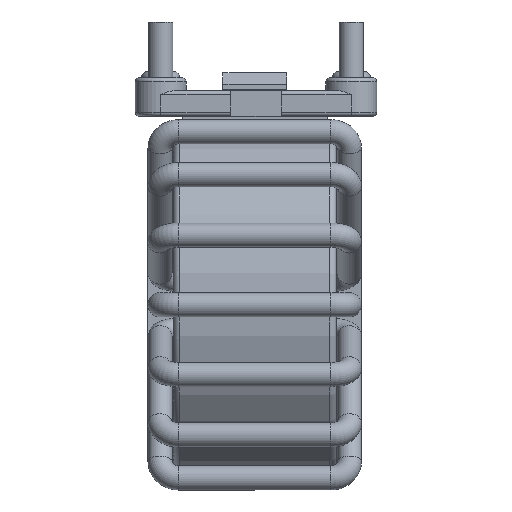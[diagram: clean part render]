
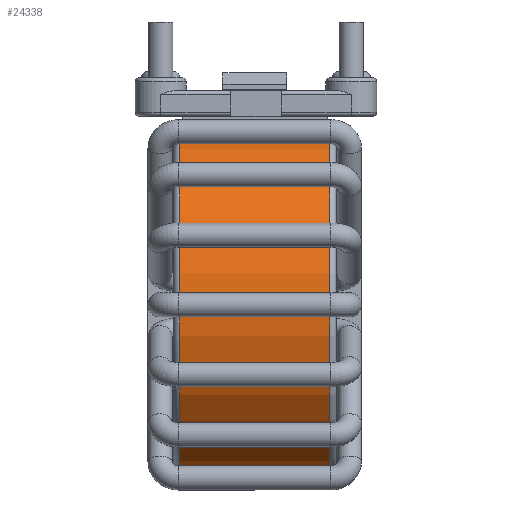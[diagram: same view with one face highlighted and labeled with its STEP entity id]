
A CAD part, left-side view. The second image highlights one B-rep face of the part: STEP entity #24338.
In plain terms, the highlighted cylindrical face has radius 14.2 mm (diameter 28.4 mm), a full revolution.
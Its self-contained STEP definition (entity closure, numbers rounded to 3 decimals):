
#1356=FACE_BOUND('',#7831,.T.);
#1357=FACE_BOUND('',#7832,.T.);
#2735=LINE('',#36972,#4633);
#2736=LINE('',#36978,#4634);
#2737=LINE('',#36981,#4635);
#2738=LINE('',#36986,#4636);
#2739=LINE('',#36989,#4637);
#4633=VECTOR('',#29410,14.2);
#4634=VECTOR('',#29415,10.);
#4635=VECTOR('',#29418,10.);
#4636=VECTOR('',#29421,10.);
#4637=VECTOR('',#29424,10.);
#5939=CYLINDRICAL_SURFACE('',#26075,14.2);
#6535=FACE_OUTER_BOUND('',#7830,.T.);
#7830=EDGE_LOOP('',(#18360,#18361,#18362,#18363,#18364));
#7831=EDGE_LOOP('',(#18365,#18366,#18367,#18368));
#7832=EDGE_LOOP('',(#18369,#18370,#18371,#18372));
#9157=CIRCLE('',#26070,14.2);
#9161=CIRCLE('',#26074,14.2);
#9162=CIRCLE('',#26076,14.2);
#9163=CIRCLE('',#26077,14.2);
#9164=CIRCLE('',#26078,14.2);
#9165=CIRCLE('',#26079,14.2);
#9166=CIRCLE('',#26080,14.2);
#10397=VERTEX_POINT('',#36961);
#10398=VERTEX_POINT('',#36962);
#10401=VERTEX_POINT('',#36971);
#10402=VERTEX_POINT('',#36974);
#10403=VERTEX_POINT('',#36975);
#10404=VERTEX_POINT('',#36977);
#10405=VERTEX_POINT('',#36979);
#10406=VERTEX_POINT('',#36982);
#10407=VERTEX_POINT('',#36983);
#10408=VERTEX_POINT('',#36985);
#10409=VERTEX_POINT('',#36987);
#13275=EDGE_CURVE('',#10397,#10398,#9157,.T.);
#13279=EDGE_CURVE('',#10398,#10397,#9161,.T.);
#13280=EDGE_CURVE('',#10397,#10401,#2735,.T.);
#13281=EDGE_CURVE('',#10401,#10401,#9162,.T.);
#13282=EDGE_CURVE('',#10402,#10403,#9163,.T.);
#13283=EDGE_CURVE('',#10404,#10403,#2736,.T.);
#13284=EDGE_CURVE('',#10404,#10405,#9164,.T.);
#13285=EDGE_CURVE('',#10402,#10405,#2737,.T.);
#13286=EDGE_CURVE('',#10406,#10407,#9165,.T.);
#13287=EDGE_CURVE('',#10408,#10407,#2738,.T.);
#13288=EDGE_CURVE('',#10408,#10409,#9166,.T.);
#13289=EDGE_CURVE('',#10406,#10409,#2739,.T.);
#18360=ORIENTED_EDGE('',*,*,#13275,.F.);
#18361=ORIENTED_EDGE('',*,*,#13280,.T.);
#18362=ORIENTED_EDGE('',*,*,#13281,.F.);
#18363=ORIENTED_EDGE('',*,*,#13280,.F.);
#18364=ORIENTED_EDGE('',*,*,#13279,.F.);
#18365=ORIENTED_EDGE('',*,*,#13282,.T.);
#18366=ORIENTED_EDGE('',*,*,#13283,.F.);
#18367=ORIENTED_EDGE('',*,*,#13284,.T.);
#18368=ORIENTED_EDGE('',*,*,#13285,.F.);
#18369=ORIENTED_EDGE('',*,*,#13286,.T.);
#18370=ORIENTED_EDGE('',*,*,#13287,.F.);
#18371=ORIENTED_EDGE('',*,*,#13288,.T.);
#18372=ORIENTED_EDGE('',*,*,#13289,.F.);
#24338=ADVANCED_FACE('',(#6535,#1356,#1357),#5939,.T.);
#26070=AXIS2_PLACEMENT_3D('',#36963,#29398,#29399);
#26074=AXIS2_PLACEMENT_3D('',#36969,#29406,#29407);
#26075=AXIS2_PLACEMENT_3D('',#36970,#29408,#29409);
#26076=AXIS2_PLACEMENT_3D('',#36973,#29411,#29412);
#26077=AXIS2_PLACEMENT_3D('',#36976,#29413,#29414);
#26078=AXIS2_PLACEMENT_3D('',#36980,#29416,#29417);
#26079=AXIS2_PLACEMENT_3D('',#36984,#29419,#29420);
#26080=AXIS2_PLACEMENT_3D('',#36988,#29422,#29423);
#29398=DIRECTION('center_axis',(0.,1.,0.));
#29399=DIRECTION('ref_axis',(0.,0.,-1.));
#29406=DIRECTION('center_axis',(0.,1.,0.));
#29407=DIRECTION('ref_axis',(0.,0.,-1.));
#29408=DIRECTION('center_axis',(0.,1.,0.));
#29409=DIRECTION('ref_axis',(0.,0.,-1.));
#29410=DIRECTION('',(0.,-1.,0.));
#29411=DIRECTION('center_axis',(0.,-1.,0.));
#29412=DIRECTION('ref_axis',(0.,0.,-1.));
#29413=DIRECTION('center_axis',(0.,-1.,0.));
#29414=DIRECTION('ref_axis',(0.,0.,-1.));
#29415=DIRECTION('',(0.,-1.,0.));
#29416=DIRECTION('center_axis',(0.,1.,0.));
#29417=DIRECTION('ref_axis',(0.,0.,-1.));
#29418=DIRECTION('',(0.,1.,0.));
#29419=DIRECTION('center_axis',(0.,-1.,0.));
#29420=DIRECTION('ref_axis',(0.,0.,-1.));
#29421=DIRECTION('',(0.,-1.,0.));
#29422=DIRECTION('center_axis',(0.,1.,0.));
#29423=DIRECTION('ref_axis',(0.,0.,-1.));
#29424=DIRECTION('',(0.,1.,0.));
#36961=CARTESIAN_POINT('',(0.,6.,-2.65));
#36962=CARTESIAN_POINT('',(0.,6.,-31.05));
#36963=CARTESIAN_POINT('Origin',(0.,6.,-16.85));
#36969=CARTESIAN_POINT('Origin',(0.,6.,-16.85));
#36970=CARTESIAN_POINT('Origin',(0.,-5.1,-16.85));
#36971=CARTESIAN_POINT('',(0.,-5.8,-2.65));
#36972=CARTESIAN_POINT('',(0.,-5.1,-2.65));
#36973=CARTESIAN_POINT('Origin',(0.,-5.8,-16.85));
#36974=CARTESIAN_POINT('',(4.83,-5.6,-3.497));
#36975=CARTESIAN_POINT('',(2.898,-5.6,-2.949));
#36976=CARTESIAN_POINT('Origin',(0.,-5.6,-16.85));
#36977=CARTESIAN_POINT('',(2.898,5.8,-2.949));
#36978=CARTESIAN_POINT('',(2.898,-5.1,-2.949));
#36979=CARTESIAN_POINT('',(4.83,5.8,-3.497));
#36980=CARTESIAN_POINT('Origin',(0.,5.8,-16.85));
#36981=CARTESIAN_POINT('',(4.83,-5.1,-3.497));
#36982=CARTESIAN_POINT('',(-2.898,-5.6,-2.949));
#36983=CARTESIAN_POINT('',(-4.83,-5.6,-3.497));
#36984=CARTESIAN_POINT('Origin',(0.,-5.6,-16.85));
#36985=CARTESIAN_POINT('',(-4.83,5.8,-3.497));
#36986=CARTESIAN_POINT('',(-4.83,-5.1,-3.497));
#36987=CARTESIAN_POINT('',(-2.898,5.8,-2.949));
#36988=CARTESIAN_POINT('Origin',(0.,5.8,-16.85));
#36989=CARTESIAN_POINT('',(-2.898,-5.1,-2.949));
